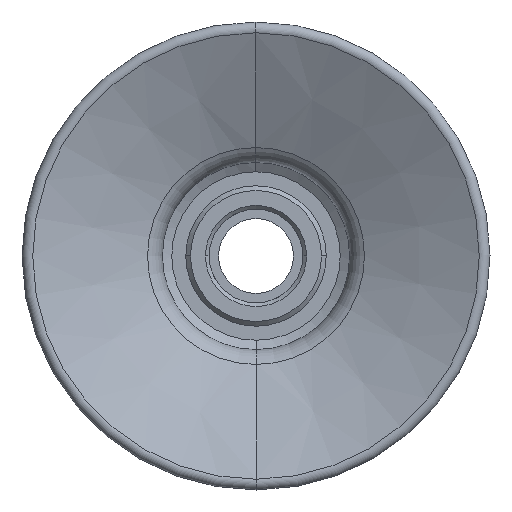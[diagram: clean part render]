
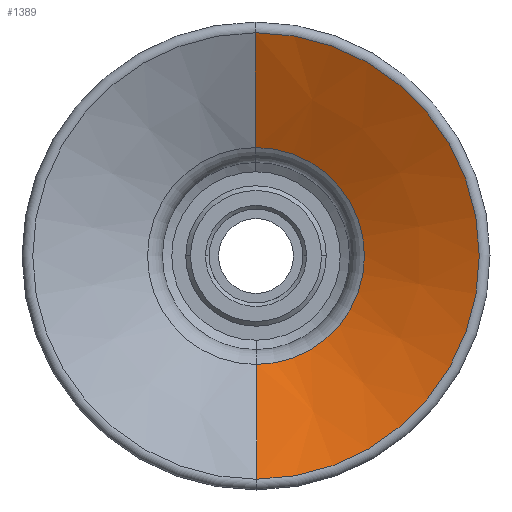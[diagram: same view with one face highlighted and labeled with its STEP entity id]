
A CAD part, front view. The second image highlights one B-rep face of the part: STEP entity #1389.
In plain terms, the highlighted conical face has half-angle 64.353 degrees and reference radius 8.861 mm.
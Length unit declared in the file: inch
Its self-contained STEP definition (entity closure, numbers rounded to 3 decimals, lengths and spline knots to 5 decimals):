
#142 = VERTEX_POINT ( 'NONE', #2387 ) ;
#240 = AXIS2_PLACEMENT_3D ( 'NONE', #2827, #2337, #3572 ) ;
#369 = CARTESIAN_POINT ( 'NONE',  ( -0.22811, 0., -0.62297 ) ) ;
#474 = EDGE_CURVE ( 'NONE', #2998, #142, #726, .T. ) ;
#573 = EDGE_CURVE ( 'NONE', #5485, #2746, #2587, .T. ) ;
#711 = DIRECTION ( 'NONE',  ( 0., 0., -1. ) ) ;
#726 = LINE ( 'NONE', #1208, #2895 ) ;
#741 = DIRECTION ( 'NONE',  ( -1., 0., 0. ) ) ;
#810 = DIRECTION ( 'NONE',  ( 1., 0., 0. ) ) ;
#881 = AXIS2_PLACEMENT_3D ( 'NONE', #4986, #711, #741 ) ;
#1026 = ORIENTED_EDGE ( 'NONE', *, *, #573, .T. ) ;
#1208 = CARTESIAN_POINT ( 'NONE',  ( 0.22811, 0., -0.62297 ) ) ;
#1238 = FACE_OUTER_BOUND ( 'NONE', #3403, .T. ) ;
#1389 = ADVANCED_FACE ( 'NONE', ( #1238 ), #4169, .F. ) ;
#1434 = CIRCLE ( 'NONE', #881, 0.22811 ) ;
#2238 = CIRCLE ( 'NONE', #240, 0.46956 ) ;
#2337 = DIRECTION ( 'NONE',  ( 0., 0., 1. ) ) ;
#2387 = CARTESIAN_POINT ( 'NONE',  ( 0.46956, 0., -0.7389 ) ) ;
#2587 = LINE ( 'NONE', #369, #2810 ) ;
#2746 = VERTEX_POINT ( 'NONE', #4208 ) ;
#2810 = VECTOR ( 'NONE', #5163, 39.37008 ) ;
#2827 = CARTESIAN_POINT ( 'NONE',  ( 0., 0., -0.7389 ) ) ;
#2895 = VECTOR ( 'NONE', #3738, 39.37008 ) ;
#2998 = VERTEX_POINT ( 'NONE', #4619 ) ;
#3093 = ORIENTED_EDGE ( 'NONE', *, *, #474, .F. ) ;
#3172 = AXIS2_PLACEMENT_3D ( 'NONE', #3824, #4710, #810 ) ;
#3403 = EDGE_LOOP ( 'NONE', ( #4698, #1026, #5609, #3093 ) ) ;
#3572 = DIRECTION ( 'NONE',  ( 1., 0., 0. ) ) ;
#3738 = DIRECTION ( 'NONE',  ( 0.901, 0., -0.433 ) ) ;
#3824 = CARTESIAN_POINT ( 'NONE',  ( 0., 0., -0.68094 ) ) ;
#4169 = CONICAL_SURFACE ( 'NONE', #3172, 0.34884, 1.123 ) ;
#4208 = CARTESIAN_POINT ( 'NONE',  ( -0.46956, 0., -0.7389 ) ) ;
#4619 = CARTESIAN_POINT ( 'NONE',  ( 0.22811, 0., -0.62297 ) ) ;
#4698 = ORIENTED_EDGE ( 'NONE', *, *, #5136, .F. ) ;
#4710 = DIRECTION ( 'NONE',  ( 0., 0., -1. ) ) ;
#4746 = EDGE_CURVE ( 'NONE', #142, #2746, #2238, .T. ) ;
#4986 = CARTESIAN_POINT ( 'NONE',  ( 0., 0., -0.62297 ) ) ;
#5136 = EDGE_CURVE ( 'NONE', #5485, #2998, #1434, .T. ) ;
#5163 = DIRECTION ( 'NONE',  ( -0.901, 0., -0.433 ) ) ;
#5432 = CARTESIAN_POINT ( 'NONE',  ( -0.22811, 0., -0.62297 ) ) ;
#5485 = VERTEX_POINT ( 'NONE', #5432 ) ;
#5609 = ORIENTED_EDGE ( 'NONE', *, *, #4746, .F. ) ;
